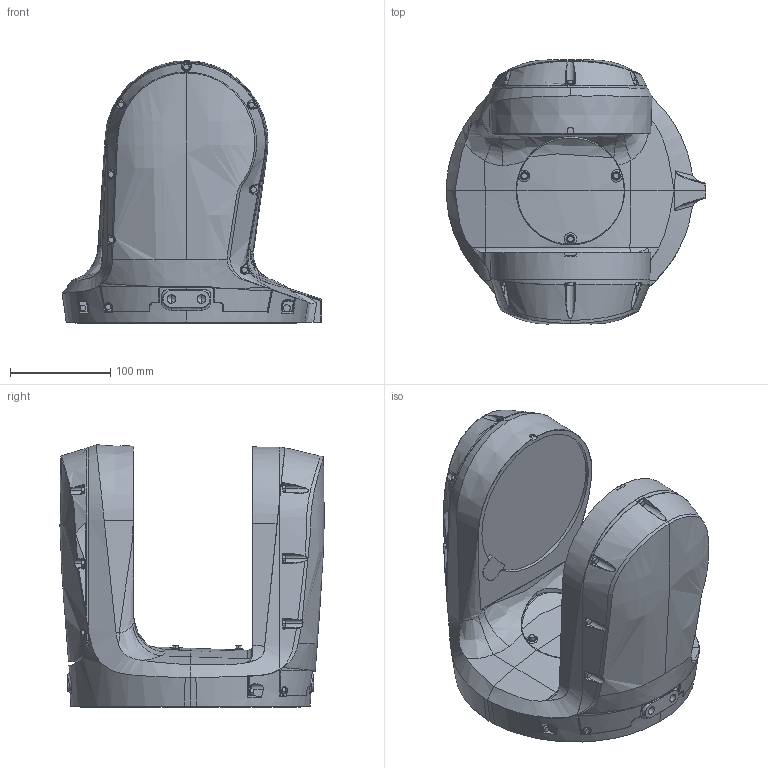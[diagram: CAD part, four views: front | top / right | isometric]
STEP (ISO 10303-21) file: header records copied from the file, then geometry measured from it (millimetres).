
FILE_DESCRIPTION (( 'STEP AP214' ), '1' );
FILE_NAME ('IRB1200H_7-705-90_IRC5_Link1_rev0.step', '2022-01-17T08:45:18', ( '' ), ( '' ), 'SwSTEP 2.0', 'SolidWorks 2020', '' );
FILE_SCHEMA (( 'AUTOMOTIVE_DESIGN' ));
Length unit declared in the file: millimetre
Products named in the file (1): IRB1200H_7-705-90_IRC5_Link1_rev0
Bounding box: 258.82 x 262.98 x 261.43 mm (x, y, z)
Volume: 6078629.1 mm3; surface area: 289338.4 mm2
Topology: 1 solids, 11 shells, 753 faces, 1866 edges, 1151 vertices
Faces by surface type: bspline 318, plane 192, cylinder 150, cone 52, torus 33, sphere 8
Entity records: 52259 total; most frequent: CARTESIAN_POINT 37100, ORIENTED_EDGE 3704, DIRECTION 2318, EDGE_CURVE 1852, VERTEX_POINT 1151, AXIS2_PLACEMENT_3D 952, B_SPLINE_CURVE_WITH_KNOTS 887, EDGE_LOOP 783
